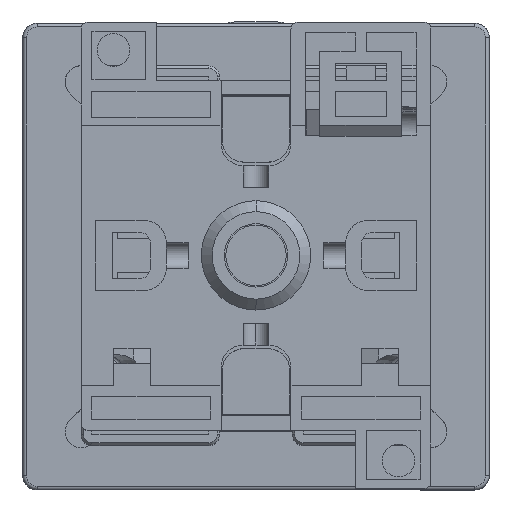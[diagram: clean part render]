
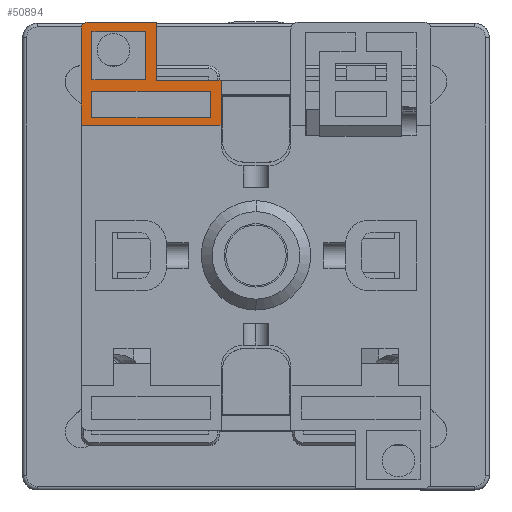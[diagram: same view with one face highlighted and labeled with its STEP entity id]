
A CAD part, top view. The second image highlights one B-rep face of the part: STEP entity #50894.
In plain terms, the highlighted planar face has unit normal (0, 0, 1).
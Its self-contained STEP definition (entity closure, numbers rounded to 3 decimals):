
#7114 = DIRECTION ( 'NONE',  ( 1., 0., 0. ) ) ;
#7368 = EDGE_CURVE ( 'NONE', #146143, #128580, #123853, .T. ) ;
#11970 = CARTESIAN_POINT ( 'NONE',  ( -16.139, 17.389, -144.082 ) ) ;
#13346 = EDGE_LOOP ( 'NONE', ( #170069, #125348, #196730, #117442 ) ) ;
#15531 = DIRECTION ( 'NONE',  ( 1., 0., 0. ) ) ;
#16337 = DIRECTION ( 'NONE',  ( 0., 0., -1. ) ) ;
#16403 = ORIENTED_EDGE ( 'NONE', *, *, #82796, .F. ) ;
#22146 = LINE ( 'NONE', #132585, #210597 ) ;
#24296 = CARTESIAN_POINT ( 'NONE',  ( 0.061, 17.389, -144.082 ) ) ;
#25439 = VERTEX_POINT ( 'NONE', #180198 ) ;
#29341 = LINE ( 'NONE', #142157, #106512 ) ;
#33857 = VECTOR ( 'NONE', #193982, 1000. ) ;
#35766 = VERTEX_POINT ( 'NONE', #229609 ) ;
#36846 = LINE ( 'NONE', #136161, #48220 ) ;
#37407 = CARTESIAN_POINT ( 'NONE',  ( -16.639, 25.889, -144.082 ) ) ;
#37460 = ORIENTED_EDGE ( 'NONE', *, *, #55628, .F. ) ;
#37635 = VERTEX_POINT ( 'NONE', #180776 ) ;
#40951 = VERTEX_POINT ( 'NONE', #109128 ) ;
#44939 = DIRECTION ( 'NONE',  ( -1., 0., 0. ) ) ;
#46592 = LINE ( 'NONE', #217702, #186568 ) ;
#48220 = VECTOR ( 'NONE', #64212, 1000. ) ;
#50834 = FACE_OUTER_BOUND ( 'NONE', #110700, .T. ) ;
#50894 = ADVANCED_FACE ( 'NONE', ( #156730, #105124, #50834 ), #236645, .F. ) ;
#51836 = DIRECTION ( 'NONE',  ( 1., 0., 0. ) ) ;
#52845 = CARTESIAN_POINT ( 'NONE',  ( -16.639, 26.889, -144.082 ) ) ;
#53741 = LINE ( 'NONE', #104503, #33857 ) ;
#54002 = AXIS2_PLACEMENT_3D ( 'NONE', #127139, #16337, #15531 ) ;
#55248 = ORIENTED_EDGE ( 'NONE', *, *, #93154, .F. ) ;
#55628 = EDGE_CURVE ( 'NONE', #35766, #108122, #56513, .T. ) ;
#56490 = DIRECTION ( 'NONE',  ( 1., 0., 0. ) ) ;
#56513 = LINE ( 'NONE', #170712, #145228 ) ;
#56782 = DIRECTION ( 'NONE',  ( 0., -1., 0. ) ) ;
#58244 = LINE ( 'NONE', #163856, #166956 ) ;
#60150 = CARTESIAN_POINT ( 'NONE',  ( 0.061, 17.389, -144.082 ) ) ;
#62564 = EDGE_CURVE ( 'NONE', #108122, #185505, #146815, .T. ) ;
#62671 = ORIENTED_EDGE ( 'NONE', *, *, #200592, .F. ) ;
#62791 = ORIENTED_EDGE ( 'NONE', *, *, #220599, .F. ) ;
#64212 = DIRECTION ( 'NONE',  ( 0., -1., 0. ) ) ;
#66557 = ORIENTED_EDGE ( 'NONE', *, *, #183383, .T. ) ;
#71698 = DIRECTION ( 'NONE',  ( 0., 0., 1. ) ) ;
#74897 = LINE ( 'NONE', #211624, #174849 ) ;
#75757 = EDGE_CURVE ( 'NONE', #128580, #127091, #194030, .T. ) ;
#78966 = ORIENTED_EDGE ( 'NONE', *, *, #92047, .F. ) ;
#79618 = CARTESIAN_POINT ( 'NONE',  ( -16.139, 25.589, -144.082 ) ) ;
#80290 = EDGE_CURVE ( 'NONE', #127091, #187745, #46592, .T. ) ;
#81347 = CARTESIAN_POINT ( 'NONE',  ( 0.061, 13.739, -144.082 ) ) ;
#82796 = EDGE_CURVE ( 'NONE', #37635, #151466, #29341, .T. ) ;
#82893 = CARTESIAN_POINT ( 'NONE',  ( 0.061, 13.739, -144.082 ) ) ;
#84857 = VERTEX_POINT ( 'NONE', #52845 ) ;
#84871 = LINE ( 'NONE', #209810, #159131 ) ;
#88168 = VERTEX_POINT ( 'NONE', #162158 ) ;
#90936 = VECTOR ( 'NONE', #44939, 1000. ) ;
#92047 = EDGE_CURVE ( 'NONE', #88168, #35766, #220051, .T. ) ;
#93154 = EDGE_CURVE ( 'NONE', #84857, #25439, #84871, .T. ) ;
#97318 = DIRECTION ( 'NONE',  ( 0., 1., 0. ) ) ;
#102761 = ORIENTED_EDGE ( 'NONE', *, *, #149129, .F. ) ;
#102890 = ORIENTED_EDGE ( 'NONE', *, *, #120091, .T. ) ;
#104503 = CARTESIAN_POINT ( 'NONE',  ( -8.739, 25.589, -144.082 ) ) ;
#105124 = FACE_BOUND ( 'NONE', #136834, .T. ) ;
#106512 = VECTOR ( 'NONE', #194026, 1000. ) ;
#108122 = VERTEX_POINT ( 'NONE', #205896 ) ;
#109128 = CARTESIAN_POINT ( 'NONE',  ( 1.561, 18.889, -144.082 ) ) ;
#110700 = EDGE_LOOP ( 'NONE', ( #55248, #66557, #16403, #102890, #233384, #62791, #102761 ) ) ;
#117442 = ORIENTED_EDGE ( 'NONE', *, *, #230915, .F. ) ;
#120091 = EDGE_CURVE ( 'NONE', #37635, #138842, #74897, .T. ) ;
#122937 = CARTESIAN_POINT ( 'NONE',  ( -7.239, 18.889, -144.082 ) ) ;
#123853 = LINE ( 'NONE', #81347, #189567 ) ;
#125348 = ORIENTED_EDGE ( 'NONE', *, *, #75757, .F. ) ;
#127091 = VERTEX_POINT ( 'NONE', #11970 ) ;
#127139 = CARTESIAN_POINT ( 'NONE',  ( 6.361, -5.111, -144.082 ) ) ;
#128580 = VERTEX_POINT ( 'NONE', #60150 ) ;
#128976 = AXIS2_PLACEMENT_3D ( 'NONE', #37407, #71698, #56490 ) ;
#129538 = VECTOR ( 'NONE', #195075, 1000. ) ;
#132585 = CARTESIAN_POINT ( 'NONE',  ( -7.239, 18.889, -144.082 ) ) ;
#133399 = DIRECTION ( 'NONE',  ( 1., 0., 0. ) ) ;
#133941 = DIRECTION ( 'NONE',  ( 0., -1., 0. ) ) ;
#135478 = DIRECTION ( 'NONE',  ( -1., 0., 0. ) ) ;
#136161 = CARTESIAN_POINT ( 'NONE',  ( -7.239, 18.889, -144.082 ) ) ;
#136834 = EDGE_LOOP ( 'NONE', ( #149329, #37460, #78966, #62671 ) ) ;
#138842 = VERTEX_POINT ( 'NONE', #170346 ) ;
#140284 = VECTOR ( 'NONE', #161706, 1000. ) ;
#142157 = CARTESIAN_POINT ( 'NONE',  ( -17.639, -29.111, -144.082 ) ) ;
#145228 = VECTOR ( 'NONE', #133941, 1000. ) ;
#146066 = LINE ( 'NONE', #160125, #140284 ) ;
#146143 = VERTEX_POINT ( 'NONE', #82893 ) ;
#146815 = LINE ( 'NONE', #211095, #129538 ) ;
#149129 = EDGE_CURVE ( 'NONE', #25439, #218323, #36846, .T. ) ;
#149329 = ORIENTED_EDGE ( 'NONE', *, *, #62564, .F. ) ;
#151466 = VERTEX_POINT ( 'NONE', #162166 ) ;
#156730 = FACE_BOUND ( 'NONE', #13346, .T. ) ;
#157036 = CARTESIAN_POINT ( 'NONE',  ( -16.139, 13.739, -144.082 ) ) ;
#159131 = VECTOR ( 'NONE', #7114, 1000. ) ;
#160125 = CARTESIAN_POINT ( 'NONE',  ( 0.061, 13.739, -144.082 ) ) ;
#161706 = DIRECTION ( 'NONE',  ( 1., 0., 0. ) ) ;
#162158 = CARTESIAN_POINT ( 'NONE',  ( -8.739, 25.589, -144.082 ) ) ;
#162166 = CARTESIAN_POINT ( 'NONE',  ( -17.639, 25.889, -144.082 ) ) ;
#163856 = CARTESIAN_POINT ( 'NONE',  ( 1.561, 26.889, -144.082 ) ) ;
#166956 = VECTOR ( 'NONE', #56782, 1000. ) ;
#170069 = ORIENTED_EDGE ( 'NONE', *, *, #80290, .F. ) ;
#170346 = CARTESIAN_POINT ( 'NONE',  ( 1.561, 12.739, -144.082 ) ) ;
#170712 = CARTESIAN_POINT ( 'NONE',  ( -16.139, 25.589, -144.082 ) ) ;
#174849 = VECTOR ( 'NONE', #51836, 1000. ) ;
#180198 = CARTESIAN_POINT ( 'NONE',  ( -7.239, 26.889, -144.082 ) ) ;
#180776 = CARTESIAN_POINT ( 'NONE',  ( -17.639, 12.739, -144.082 ) ) ;
#183176 = CARTESIAN_POINT ( 'NONE',  ( -8.739, 18.939, -144.082 ) ) ;
#183383 = EDGE_CURVE ( 'NONE', #84857, #151466, #230929, .T. ) ;
#185505 = VERTEX_POINT ( 'NONE', #183176 ) ;
#186568 = VECTOR ( 'NONE', #200832, 1000. ) ;
#187745 = VERTEX_POINT ( 'NONE', #157036 ) ;
#189567 = VECTOR ( 'NONE', #97318, 1000. ) ;
#193982 = DIRECTION ( 'NONE',  ( 0., 1., 0. ) ) ;
#194026 = DIRECTION ( 'NONE',  ( 0., 1., 0. ) ) ;
#194030 = LINE ( 'NONE', #24296, #90936 ) ;
#195075 = DIRECTION ( 'NONE',  ( 1., 0., 0. ) ) ;
#196730 = ORIENTED_EDGE ( 'NONE', *, *, #7368, .F. ) ;
#200592 = EDGE_CURVE ( 'NONE', #185505, #88168, #53741, .T. ) ;
#200832 = DIRECTION ( 'NONE',  ( 0., -1., 0. ) ) ;
#205896 = CARTESIAN_POINT ( 'NONE',  ( -16.139, 18.939, -144.082 ) ) ;
#209810 = CARTESIAN_POINT ( 'NONE',  ( -17.639, 26.889, -144.082 ) ) ;
#210597 = VECTOR ( 'NONE', #133399, 1000. ) ;
#211095 = CARTESIAN_POINT ( 'NONE',  ( -16.139, 18.939, -144.082 ) ) ;
#211624 = CARTESIAN_POINT ( 'NONE',  ( -53.715, 12.739, -144.082 ) ) ;
#217702 = CARTESIAN_POINT ( 'NONE',  ( -16.139, 13.739, -144.082 ) ) ;
#218323 = VERTEX_POINT ( 'NONE', #122937 ) ;
#220051 = LINE ( 'NONE', #79618, #231459 ) ;
#220599 = EDGE_CURVE ( 'NONE', #218323, #40951, #22146, .T. ) ;
#226463 = EDGE_CURVE ( 'NONE', #40951, #138842, #58244, .T. ) ;
#229609 = CARTESIAN_POINT ( 'NONE',  ( -16.139, 25.589, -144.082 ) ) ;
#230915 = EDGE_CURVE ( 'NONE', #187745, #146143, #146066, .T. ) ;
#230929 = CIRCLE ( 'NONE', #128976, 1. ) ;
#231459 = VECTOR ( 'NONE', #135478, 1000. ) ;
#233384 = ORIENTED_EDGE ( 'NONE', *, *, #226463, .F. ) ;
#236645 = PLANE ( 'NONE',  #54002 ) ;
